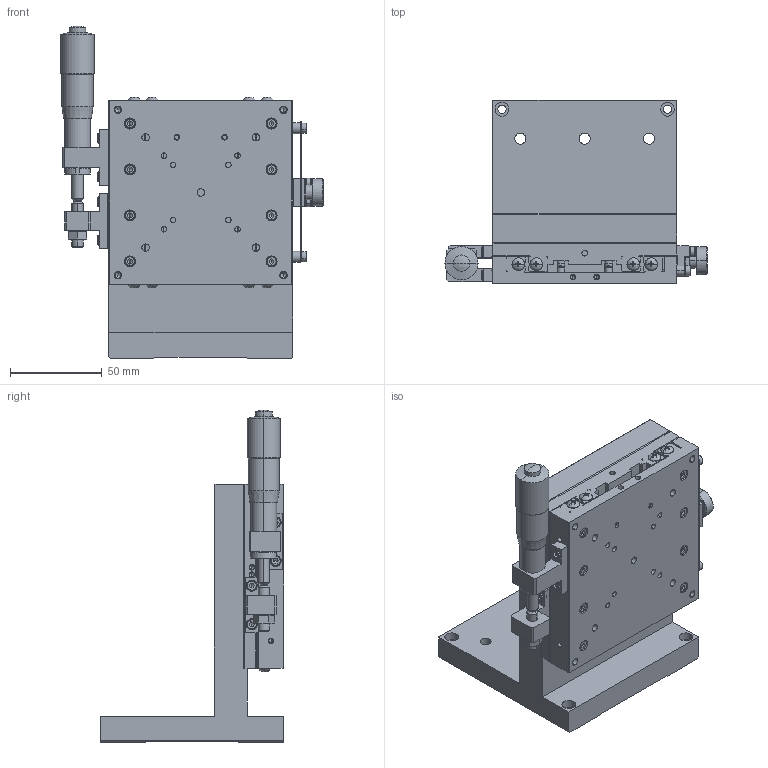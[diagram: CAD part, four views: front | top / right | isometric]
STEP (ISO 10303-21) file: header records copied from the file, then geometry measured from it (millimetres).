
FILE_DESCRIPTION (( 'STEP AP214' ), '1' );
FILE_NAME ('ZM10A-X1-R.STEP', '2007-08-07T02:23:24', ( ' ' ), ( ' ' ), 'SwSTEP 2.0', 'SolidWorks 2006052', '' );
FILE_SCHEMA (( 'AUTOMOTIVE_DESIGN' ));
Products named in the file (4): ZM10A-X1-R; 001130-1011(3D)-1; XM10A-S1Z-R(PL); 004100-1170(3D)
Assembly tree (3 placements, depth 3):
  ZM10A-X1-R
    XM10A-S1Z-R(PL)
      001130-1011(3D)-1
    004100-1170(3D)
Bounding box: 142.5 x 100 x 180.5 mm (x, y, z)
Volume: 546900.9 mm3; surface area: 140217.1 mm2
Topology: 2 solids, 65 shells, 2135 faces, 4923 edges, 2925 vertices
Faces by surface type: plane 991, cylinder 648, cone 460, sphere 20, torus 16
Entity records: 59624 total; most frequent: DIRECTION 11072, CARTESIAN_POINT 10290, ORIENTED_EDGE 9586, EDGE_CURVE 4793, AXIS2_PLACEMENT_3D 4223, VERTEX_POINT 2925, LINE 2626, VECTOR 2626
